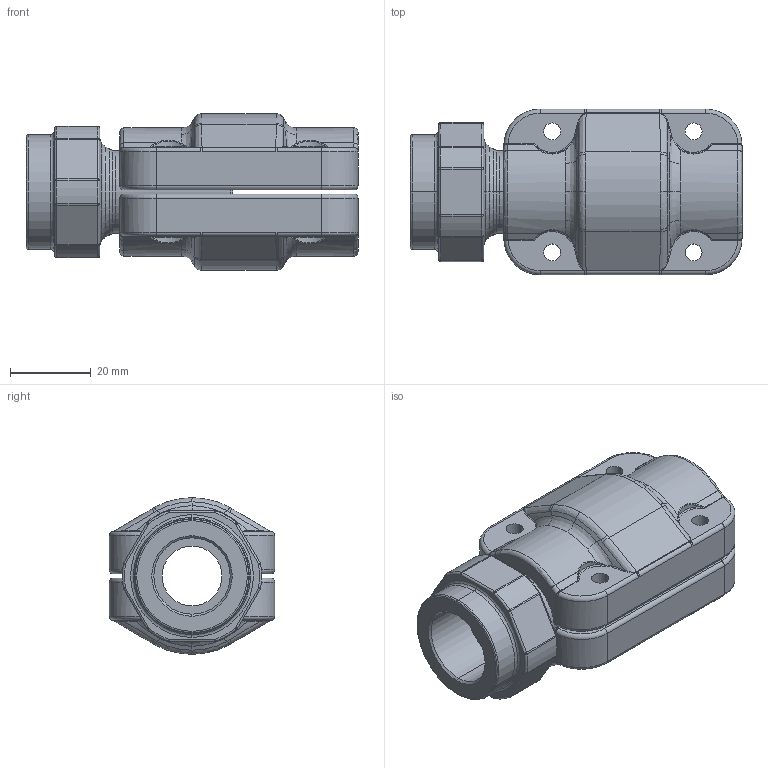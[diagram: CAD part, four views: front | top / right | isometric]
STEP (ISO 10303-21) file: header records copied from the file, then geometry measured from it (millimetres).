
FILE_DESCRIPTION((''),'2;1');
FILE_NAME('AU15101999_ASM_2_ASM','2017-05-16T',('Administrator'),(''),'PRO/ENGINEER BY PARAMETRIC TECHNOLOGY CORPORATION, 2009360','PRO/ENGINEER BY PARAMETRIC TECHNOLOGY CORPORATION, 2009360','');
FILE_SCHEMA(('AUTOMOTIVE_DESIGN_CC2 { 1 2 10303 214 -1 1 5 2 }'));
Length unit declared in the file: millimetre
Products named in the file (5): AU15101900_1; 201510020000_38_1; 201510020001_10_1; 2015100200_ASM_1_ASM; AU15101999_ASM_2_ASM
Assembly tree (4 placements, depth 3):
  AU15101999_ASM_2_ASM
    AU15101900_1
    2015100200_ASM_1_ASM
      201510020000_38_1
      201510020001_10_1
Bounding box: 82.25 x 41 x 38.8 mm (x, y, z)
Volume: 56668.2 mm3; surface area: 25633.6 mm2
Topology: 3 solids, 9 shells, 473 faces, 1117 edges, 658 vertices
Faces by surface type: bspline 160, cylinder 148, torus 92, plane 49, cone 16, sphere 8
Entity records: 22356 total; most frequent: CARTESIAN_POINT 9166, ORIENTED_EDGE 2220, DIRECTION 1860, EDGE_CURVE 1110, AXIS2_PLACEMENT_3D 811, VERTEX_POINT 658, PRESENTATION_STYLE_ASSIGNMENT 605, STYLED_ITEM 605
